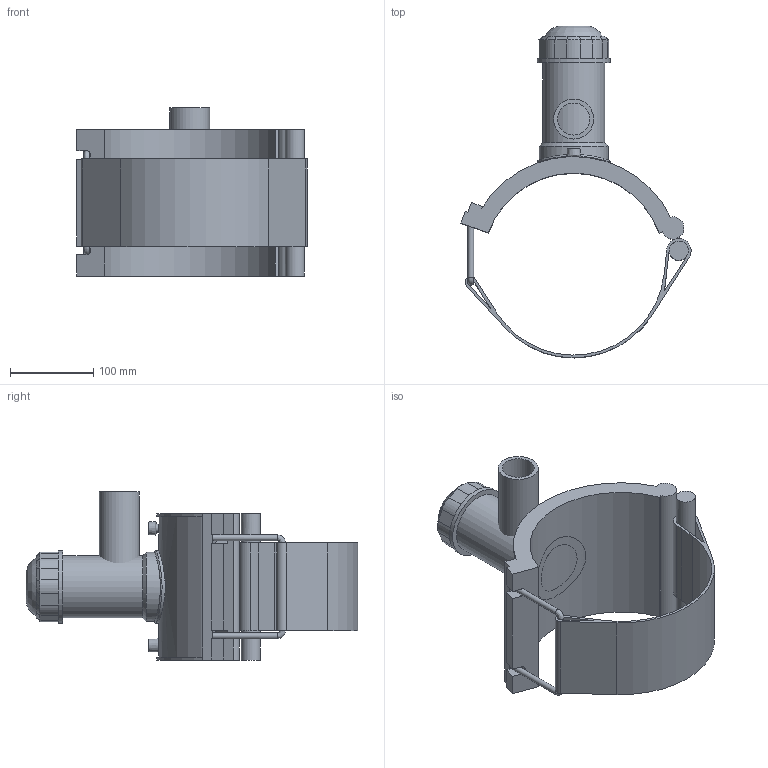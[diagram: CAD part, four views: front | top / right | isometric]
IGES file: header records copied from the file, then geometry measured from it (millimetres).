
Global section: file name: 5963BBP3080015.ipt; native system: Autodesk Inventor 2019; preprocessor: unknown; author: KIM; date: 20210830.101606; units: inch
Bounding box: 276.84 x 399.02 x 202.06 mm (x, y, z)
Volume: 1854062.6 mm3; surface area: 376224.4 mm2
Topology: 4 solids, 4 shells, 124 faces, 304 edges, 194 vertices
Faces by surface type: plane 69, cylinder 28, revolution 15, cone 11, bspline 1
Full cylindrical faces by diameter (mm): 4 x2, 6.998 x2, 23.048 x1, 48.1 x1, 74.358 x1, 83.106 x1, 87.48 x2
